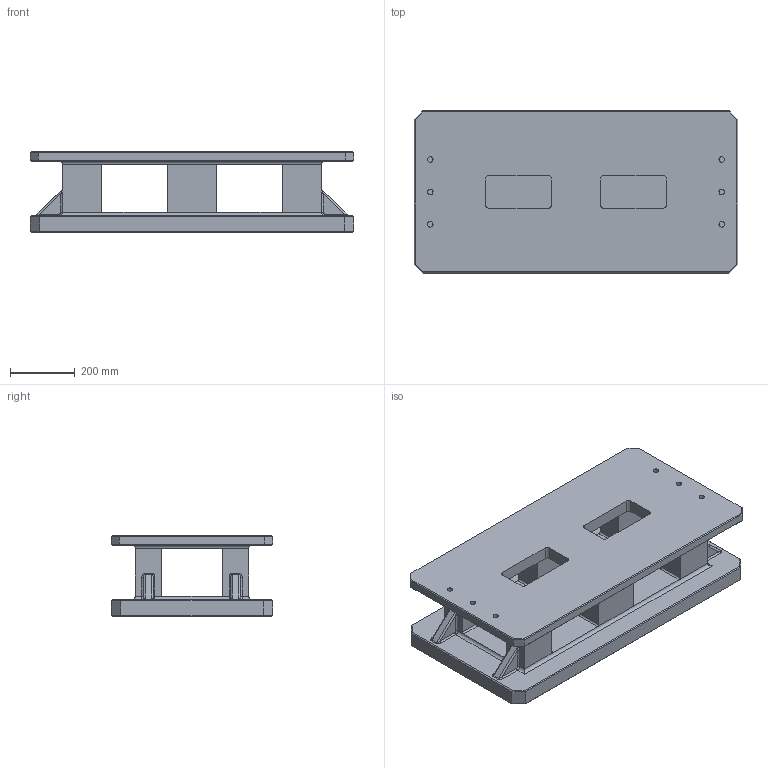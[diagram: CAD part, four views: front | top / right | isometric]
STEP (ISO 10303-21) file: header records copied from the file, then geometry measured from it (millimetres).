
FILE_DESCRIPTION((''),'2;1');
FILE_NAME('FG_WH_RISTL_RTGRDNP005','2026-05-27T15:24:15',('Admin'),(''),'CREO PARAMETRIC BY PTC INC, 2025010','CREO PARAMETRIC BY PTC INC, 2025010','');
FILE_SCHEMA(('CONFIG_CONTROL_DESIGN'));
Length unit declared in the file: millimetre
Products named in the file (1): FG_WH_RISTL_RTGRDNP005
Bounding box: 1000 x 500 x 250 mm (x, y, z)
Volume: 53713424.9 mm3; surface area: 2923981.5 mm2
Topology: 1 solids, 172 shells, 2113 faces, 4672 edges, 2901 vertices
Faces by surface type: cylinder 1130, plane 617, cone 342, bspline 24
Entity records: 58014 total; most frequent: CARTESIAN_POINT 11047, DIRECTION 11000, ORIENTED_EDGE 8318, AXIS2_PLACEMENT_3D 4636, EDGE_CURVE 4330, VERTEX_POINT 2901, EDGE_LOOP 2650, CIRCLE 2546
